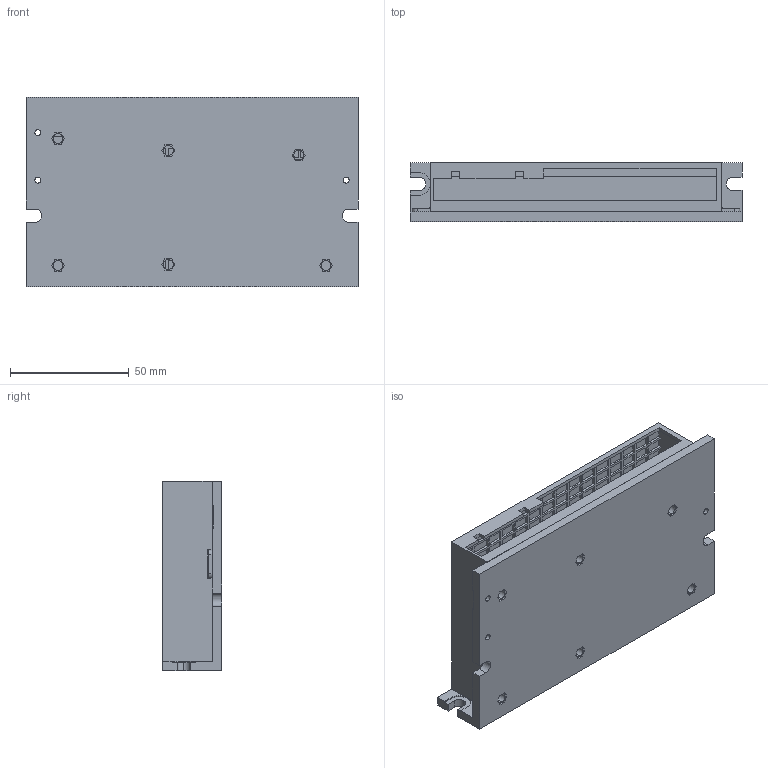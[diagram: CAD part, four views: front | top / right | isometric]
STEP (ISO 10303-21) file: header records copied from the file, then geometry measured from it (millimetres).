
FILE_DESCRIPTION (( 'STEP AP214' ), '1' );
FILE_NAME ('L1530蚾饜极.STEP', '2024-11-22T09:04:52', ( '' ), ( '' ), 'SwSTEP 2.0', 'SolidWorks 2018', '' );
FILE_SCHEMA (( 'AUTOMOTIVE_DESIGN' ));
Length unit declared in the file: millimetre
Products named in the file (3): L1530俋褲; L1530菁啣; L1530蚾饜极
Assembly tree (2 placements, depth 2):
  L1530蚾饜极
    L1530菁啣
    L1530俋褲
Bounding box: 140 x 25 x 80 mm (x, y, z)
Volume: 77625.4 mm3; surface area: 61746.6 mm2
Topology: 2 solids, 2 shells, 953 faces, 2451 edges, 1634 vertices
Faces by surface type: plane 915, cylinder 38
Entity records: 28761 total; most frequent: CARTESIAN_POINT 5043, ORIENTED_EDGE 4902, DIRECTION 4443, EDGE_CURVE 2451, LINE 2375, VECTOR 2375, VERTEX_POINT 1634, EDGE_LOOP 1111
